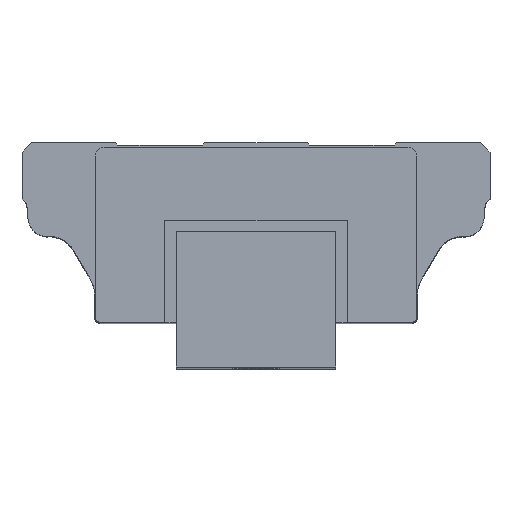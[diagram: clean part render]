
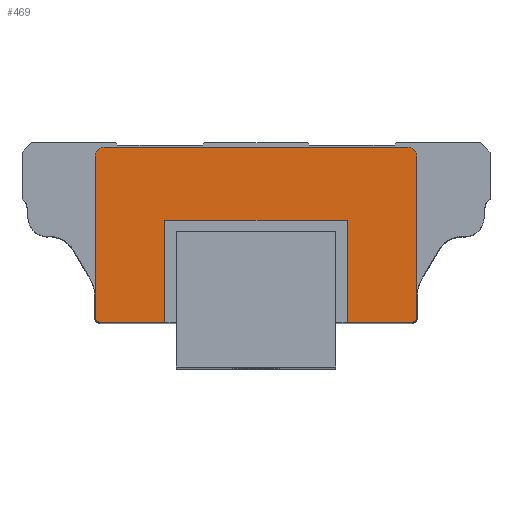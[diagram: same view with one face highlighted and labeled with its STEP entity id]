
A CAD part, top view. The second image highlights one B-rep face of the part: STEP entity #469.
In plain terms, the highlighted planar face has unit normal (0, 0, 1).
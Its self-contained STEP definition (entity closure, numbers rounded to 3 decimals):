
#469 = ADVANCED_FACE( '', ( #793 ), #794, .T. );
#793 = FACE_OUTER_BOUND( '', #1117, .T. );
#794 = PLANE( '', #1118 );
#1117 = EDGE_LOOP( '', ( #2373, #2374, #2375, #2376, #2377, #2378, #2379, #2380, #2381, #2382, #2383, #2384 ) );
#1118 = AXIS2_PLACEMENT_3D( '', #2385, #2386, #2387 );
#2373 = ORIENTED_EDGE( '', *, *, #2787, .F. );
#2374 = ORIENTED_EDGE( '', *, *, #2811, .F. );
#2375 = ORIENTED_EDGE( '', *, *, #2808, .F. );
#2376 = ORIENTED_EDGE( '', *, *, #2805, .F. );
#2377 = ORIENTED_EDGE( '', *, *, #2802, .F. );
#2378 = ORIENTED_EDGE( '', *, *, #2799, .F. );
#2379 = ORIENTED_EDGE( '', *, *, #2782, .F. );
#2380 = ORIENTED_EDGE( '', *, *, #2769, .F. );
#2381 = ORIENTED_EDGE( '', *, *, #2765, .F. );
#2382 = ORIENTED_EDGE( '', *, *, #2797, .F. );
#2383 = ORIENTED_EDGE( '', *, *, #2794, .F. );
#2384 = ORIENTED_EDGE( '', *, *, #2791, .F. );
#2385 = CARTESIAN_POINT( '', ( 17., 30.345, 194.5 ) );
#2386 = DIRECTION( '', ( 0., 0., 1. ) );
#2387 = DIRECTION( '', ( 1., 0., 0. ) );
#2765 = EDGE_CURVE( '', #3411, #3412, #3413, .T. );
#2769 = EDGE_CURVE( '', #3412, #3419, #3420, .T. );
#2782 = EDGE_CURVE( '', #3419, #3442, #3443, .T. );
#2787 = EDGE_CURVE( '', #3449, #3450, #3451, .T. );
#2791 = EDGE_CURVE( '', #3450, #3457, #3458, .T. );
#2794 = EDGE_CURVE( '', #3457, #3462, #3463, .T. );
#2797 = EDGE_CURVE( '', #3462, #3411, #3467, .T. );
#2799 = EDGE_CURVE( '', #3442, #3469, #3470, .T. );
#2802 = EDGE_CURVE( '', #3469, #3474, #3475, .T. );
#2805 = EDGE_CURVE( '', #3474, #3479, #3480, .T. );
#2808 = EDGE_CURVE( '', #3479, #3484, #3485, .T. );
#2811 = EDGE_CURVE( '', #3484, #3449, #3489, .T. );
#3411 = VERTEX_POINT( '', #4579 );
#3412 = VERTEX_POINT( '', #4580 );
#3413 = LINE( '', #4581, #4582 );
#3419 = VERTEX_POINT( '', #4591 );
#3420 = LINE( '', #4592, #4593 );
#3442 = VERTEX_POINT( '', #4627 );
#3443 = LINE( '', #4628, #4629 );
#3449 = VERTEX_POINT( '', #4639 );
#3450 = VERTEX_POINT( '', #4640 );
#3451 = CIRCLE( '', #4641, 2. );
#3457 = VERTEX_POINT( '', #4649 );
#3458 = LINE( '', #4650, #4651 );
#3462 = VERTEX_POINT( '', #4657 );
#3463 = CIRCLE( '', #4658, 1.3 );
#3467 = LINE( '', #4663, #4664 );
#3469 = VERTEX_POINT( '', #4667 );
#3470 = LINE( '', #4668, #4669 );
#3474 = VERTEX_POINT( '', #4675 );
#3475 = CIRCLE( '', #4676, 1.3 );
#3479 = VERTEX_POINT( '', #4681 );
#3480 = LINE( '', #4682, #4683 );
#3484 = VERTEX_POINT( '', #4689 );
#3485 = CIRCLE( '', #4690, 2. );
#3489 = LINE( '', #4695, #4696 );
#4579 = CARTESIAN_POINT( '', ( 36.5, 9.6, 194.5 ) );
#4580 = CARTESIAN_POINT( '', ( 36.5, 31.5, 194.5 ) );
#4581 = CARTESIAN_POINT( '', ( 36.5, 31.5, 194.5 ) );
#4582 = VECTOR( '', #5253, 1. );
#4591 = CARTESIAN_POINT( '', ( -2.5, 31.5, 194.5 ) );
#4592 = CARTESIAN_POINT( '', ( 36.5, 31.5, 194.5 ) );
#4593 = VECTOR( '', #5257, 1. );
#4627 = CARTESIAN_POINT( '', ( -2.5, 9.6, 194.5 ) );
#4628 = CARTESIAN_POINT( '', ( -2.5, 31.5, 194.5 ) );
#4629 = VECTOR( '', #5270, 1. );
#4639 = CARTESIAN_POINT( '', ( 49.4, 47.15, 194.5 ) );
#4640 = CARTESIAN_POINT( '', ( 51.4, 45.15, 194.5 ) );
#4641 = AXIS2_PLACEMENT_3D( '', #5275, #5276, #5277 );
#4649 = CARTESIAN_POINT( '', ( 51.4, 10.9, 194.5 ) );
#4650 = CARTESIAN_POINT( '', ( 51.4, 45.15, 194.5 ) );
#4651 = VECTOR( '', #5283, 1. );
#4657 = CARTESIAN_POINT( '', ( 50.1, 9.6, 194.5 ) );
#4658 = AXIS2_PLACEMENT_3D( '', #5286, #5287, #5288 );
#4663 = CARTESIAN_POINT( '', ( 50.1, 9.6, 194.5 ) );
#4664 = VECTOR( '', #5293, 1. );
#4667 = CARTESIAN_POINT( '', ( -16.1, 9.6, 194.5 ) );
#4668 = CARTESIAN_POINT( '', ( -2.5, 9.6, 194.5 ) );
#4669 = VECTOR( '', #5295, 1. );
#4675 = CARTESIAN_POINT( '', ( -17.4, 10.9, 194.5 ) );
#4676 = AXIS2_PLACEMENT_3D( '', #5298, #5299, #5300 );
#4681 = CARTESIAN_POINT( '', ( -17.4, 45.15, 194.5 ) );
#4682 = CARTESIAN_POINT( '', ( -17.4, 10.9, 194.5 ) );
#4683 = VECTOR( '', #5305, 1. );
#4689 = CARTESIAN_POINT( '', ( -15.4, 47.15, 194.5 ) );
#4690 = AXIS2_PLACEMENT_3D( '', #5308, #5309, #5310 );
#4695 = CARTESIAN_POINT( '', ( -15.4, 47.15, 194.5 ) );
#4696 = VECTOR( '', #5315, 1. );
#5253 = DIRECTION( '', ( 0., 1., 0. ) );
#5257 = DIRECTION( '', ( -1., 0., 0. ) );
#5270 = DIRECTION( '', ( 0., -1., 0. ) );
#5275 = CARTESIAN_POINT( '', ( 49.4, 45.15, 194.5 ) );
#5276 = DIRECTION( '', ( 0., 0., -1. ) );
#5277 = DIRECTION( '', ( 1., 0., 0. ) );
#5283 = DIRECTION( '', ( 0., -1., 0. ) );
#5286 = CARTESIAN_POINT( '', ( 50.1, 10.9, 194.5 ) );
#5287 = DIRECTION( '', ( 0., 0., -1. ) );
#5288 = DIRECTION( '', ( 1., 0., 0. ) );
#5293 = DIRECTION( '', ( -1., 0., 0. ) );
#5295 = DIRECTION( '', ( -1., 0., 0. ) );
#5298 = CARTESIAN_POINT( '', ( -16.1, 10.9, 194.5 ) );
#5299 = DIRECTION( '', ( 0., 0., -1. ) );
#5300 = DIRECTION( '', ( 1., 0., 0. ) );
#5305 = DIRECTION( '', ( 0., 1., 0. ) );
#5308 = CARTESIAN_POINT( '', ( -15.4, 45.15, 194.5 ) );
#5309 = DIRECTION( '', ( 0., 0., -1. ) );
#5310 = DIRECTION( '', ( 1., 0., 0. ) );
#5315 = DIRECTION( '', ( 1., 0., 0. ) );
